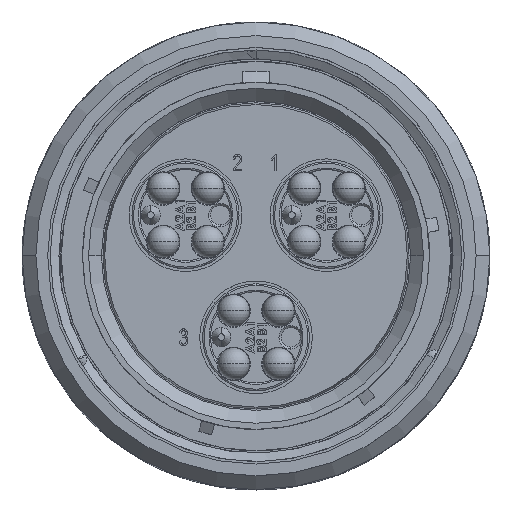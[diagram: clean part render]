
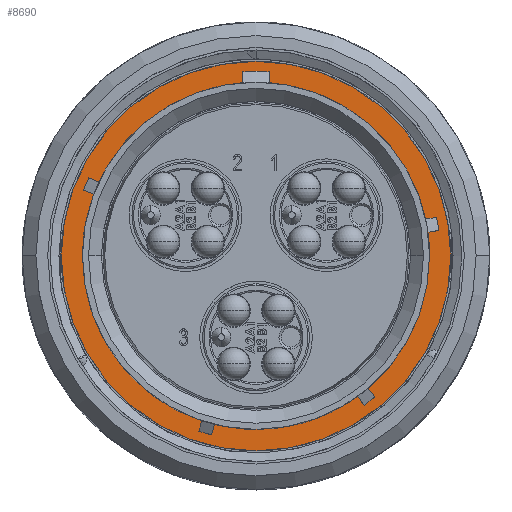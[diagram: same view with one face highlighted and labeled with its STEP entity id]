
A CAD part, top view. The second image highlights one B-rep face of the part: STEP entity #8690.
In plain terms, the highlighted planar face has unit normal (0, 0, 1).
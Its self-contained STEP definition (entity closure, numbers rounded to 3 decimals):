
#862 = ORIENTED_EDGE ( 'NONE', *, *, #21637, .T. ) ;
#900 = EDGE_CURVE ( 'NONE', #26932, #22677, #919, .T. ) ;
#919 = CIRCLE ( 'NONE', #4953, 18.225 ) ;
#2581 = DIRECTION ( 'NONE',  ( 1., 0., 0. ) ) ;
#4702 = AXIS2_PLACEMENT_3D ( 'NONE', #27254, #20884, #40806 ) ;
#4953 = AXIS2_PLACEMENT_3D ( 'NONE', #5748, #28005, #2581 ) ;
#5324 = CARTESIAN_POINT ( 'NONE',  ( 18.225, 0., 9.703 ) ) ;
#5494 = DIRECTION ( 'NONE',  ( 0., 0., 1. ) ) ;
#5748 = CARTESIAN_POINT ( 'NONE',  ( 0., 0., 9.703 ) ) ;
#6508 = DIRECTION ( 'NONE',  ( 1., 0., 0. ) ) ;
#8690 = ADVANCED_FACE ( 'NONE', ( #21092, #30635 ), #11553, .F. ) ;
#9486 = CIRCLE ( 'NONE', #14242, 18.225 ) ;
#10411 = CARTESIAN_POINT ( 'NONE',  ( -18.225, 0., 9.703 ) ) ;
#11553 = PLANE ( 'NONE',  #4702 ) ;
#13393 = EDGE_LOOP ( 'NONE', ( #21476, #29683 ) ) ;
#14183 = CARTESIAN_POINT ( 'NONE',  ( 16.116, 0., 9.703 ) ) ;
#14242 = AXIS2_PLACEMENT_3D ( 'NONE', #17446, #5494, #30157 ) ;
#14704 = CARTESIAN_POINT ( 'NONE',  ( 0., 0., 9.703 ) ) ;
#15103 = DIRECTION ( 'NONE',  ( 1., 0., 0. ) ) ;
#15841 = DIRECTION ( 'NONE',  ( 0., 0., 1. ) ) ;
#16358 = CIRCLE ( 'NONE', #17684, 16.116 ) ;
#17446 = CARTESIAN_POINT ( 'NONE',  ( 0., 0., 9.703 ) ) ;
#17684 = AXIS2_PLACEMENT_3D ( 'NONE', #14704, #27415, #15103 ) ;
#20884 = DIRECTION ( 'NONE',  ( 0., 0., -1. ) ) ;
#21092 = FACE_BOUND ( 'NONE', #13393, .T. ) ;
#21476 = ORIENTED_EDGE ( 'NONE', *, *, #36978, .F. ) ;
#21637 = EDGE_CURVE ( 'NONE', #22677, #26932, #9486, .T. ) ;
#22677 = VERTEX_POINT ( 'NONE', #10411 ) ;
#26932 = VERTEX_POINT ( 'NONE', #5324 ) ;
#27254 = CARTESIAN_POINT ( 'NONE',  ( 0., 16.116, 9.703 ) ) ;
#27415 = DIRECTION ( 'NONE',  ( 0., 0., 1. ) ) ;
#27474 = CARTESIAN_POINT ( 'NONE',  ( -16.116, 0., 9.703 ) ) ;
#27643 = AXIS2_PLACEMENT_3D ( 'NONE', #41712, #15841, #6508 ) ;
#28005 = DIRECTION ( 'NONE',  ( 0., 0., 1. ) ) ;
#28019 = ORIENTED_EDGE ( 'NONE', *, *, #900, .T. ) ;
#29683 = ORIENTED_EDGE ( 'NONE', *, *, #31088, .F. ) ;
#30157 = DIRECTION ( 'NONE',  ( 1., 0., 0. ) ) ;
#30494 = EDGE_LOOP ( 'NONE', ( #28019, #862 ) ) ;
#30635 = FACE_OUTER_BOUND ( 'NONE', #30494, .T. ) ;
#31088 = EDGE_CURVE ( 'NONE', #34260, #37812, #41174, .T. ) ;
#34260 = VERTEX_POINT ( 'NONE', #27474 ) ;
#36978 = EDGE_CURVE ( 'NONE', #37812, #34260, #16358, .T. ) ;
#37812 = VERTEX_POINT ( 'NONE', #14183 ) ;
#40806 = DIRECTION ( 'NONE',  ( -1., 0., 0. ) ) ;
#41174 = CIRCLE ( 'NONE', #27643, 16.116 ) ;
#41712 = CARTESIAN_POINT ( 'NONE',  ( 0., 0., 9.703 ) ) ;
